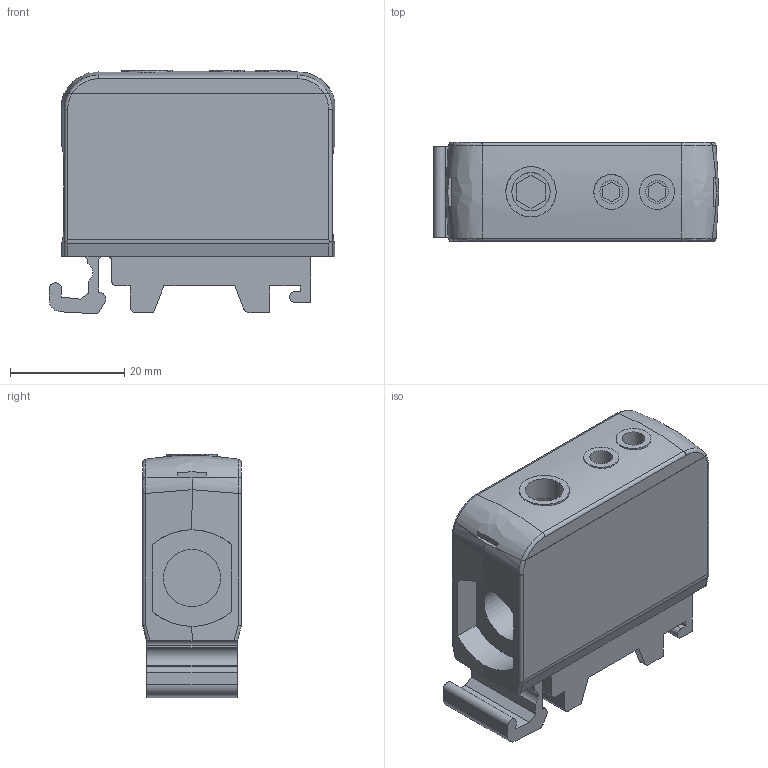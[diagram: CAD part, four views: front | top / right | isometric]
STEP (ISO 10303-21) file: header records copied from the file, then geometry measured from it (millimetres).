
FILE_DESCRIPTION(/* description */ ('Unknown'),/* implementation_level */ '2;1');
FILE_NAME(/* name */ 'utb 35_2x16',/* time_stamp */ '2021-04-01T13:14:49+02:00',/* author */ ('Unknown'),/* organization */ ('Unknown'),/* preprocessor_version */ 'ST-DEVELOPER v16.7',/* originating_system */ 'Solid Edge',/* authorisation */ 'Unknown');
FILE_SCHEMA (('AUTOMOTIVE_DESIGN {1 0 10303 214 3 1 1}'));
Length unit declared in the file: millimetre
Products named in the file (1): utb 35_2x16
Bounding box: 49.95 x 17.3 x 42.57 mm (x, y, z)
Volume: 24485.8 mm3; surface area: 9268.3 mm2
Topology: 1 solids, 1 shells, 170 faces, 433 edges, 278 vertices
Faces by surface type: plane 115, cylinder 45, bspline 10
Full cylindrical faces by diameter (mm): 4 x2, 6.1 x2, 6.7 x1, 7 x2, 7.2 x1, 8.8 x1, 10 x1
Entity records: 4996 total; most frequent: CARTESIAN_POINT 1094, ORIENTED_EDGE 806, DIRECTION 785, EDGE_CURVE 403, VERTEX_POINT 266, AXIS2_PLACEMENT_3D 264, LINE 257, VECTOR 257
